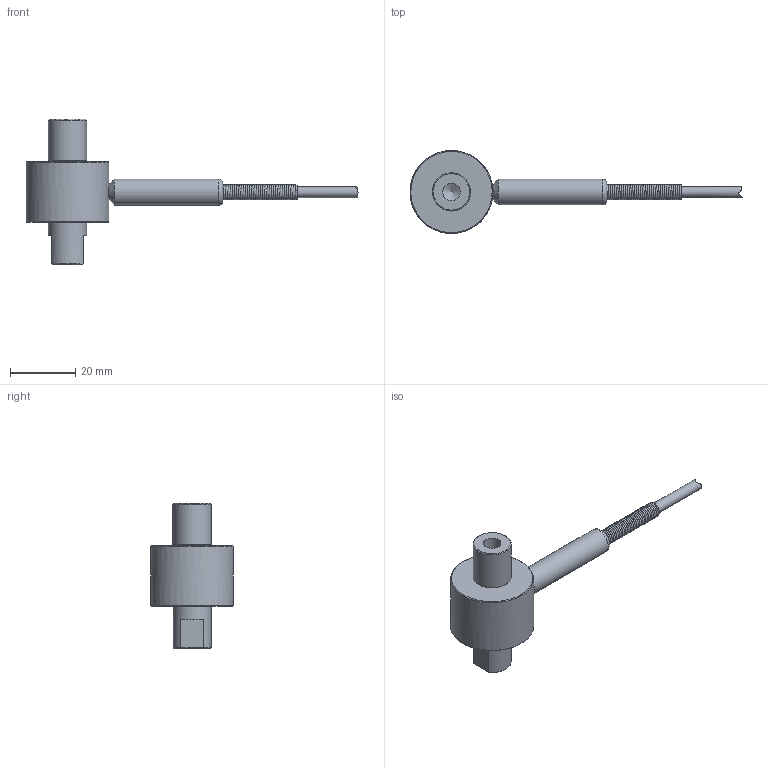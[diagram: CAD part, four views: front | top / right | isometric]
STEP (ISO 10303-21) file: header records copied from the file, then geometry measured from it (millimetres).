
FILE_DESCRIPTION (( 'STEP AP203' ), '1' );
FILE_NAME ('80834.STEP', '2019-01-04T15:29:37', ( '' ), ( '' ), 'SwSTEP 2.0', 'SolidWorks 2018', '' );
FILE_SCHEMA (( 'CONFIG_CONTROL_DESIGN' ));
Length unit declared in the file: inch
Products named in the file (1): 80834
Bounding box: 101.57 x 25.38 x 44.55 mm (x, y, z)
Volume: 13711.6 mm3; surface area: 5548.2 mm2
Topology: 1 solids, 1 shells, 43 faces, 88 edges, 55 vertices
Faces by surface type: plane 16, cylinder 13, cone 9, torus 3, bspline 2
Full cylindrical faces by diameter (mm): 1.016 x1, 3.353 x1, 5.41 x2, 5.69 x1, 6.248 x1, 7.937 x1, 11.684 x2, 25.4 x1
Entity records: 6698 total; most frequent: CARTESIAN_POINT 5853, DIRECTION 166, ORIENTED_EDGE 118, AXIS2_PLACEMENT_3D 77, EDGE_LOOP 71, EDGE_CURVE 59, FACE_OUTER_BOUND 56, VERTEX_POINT 46
